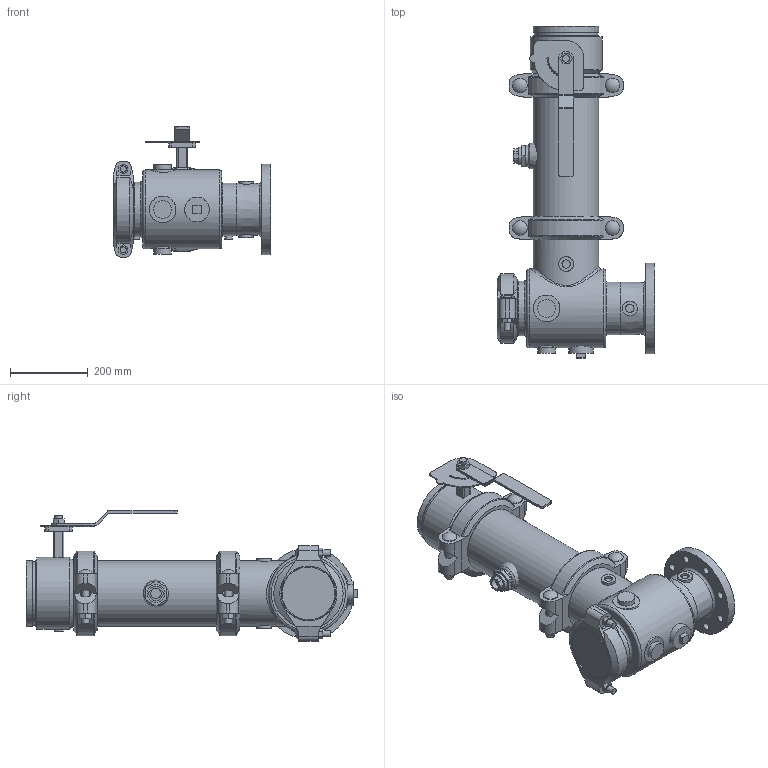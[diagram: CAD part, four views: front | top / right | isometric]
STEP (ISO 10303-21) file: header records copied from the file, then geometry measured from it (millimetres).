
FILE_DESCRIPTION(/* description */ ('VIC SVI PUMP DROP HORZ S/391 (OGSxFLG)','CAx-IF Rec.Pracs.---Representation and Presentation of Product Manufacturing Information (PMI)---4.0---2014-10-13'),/* implementation_level */ '2;1');
FILE_NAME(/* name */ 'C:\Users\Vjadhav\AppData\Roaming\Autodesk\ApplicationPlugins\Victaulic.Temp\A952\Victaulic_IPS_SVI_CL 150_Series 391 (OGSxFLG)_06.0x04.0 (150x100).stp',/* time_stamp */ '2021-04-09T17:54:12+05:00',/* author */ ('kkamble'),/* organization */ ('Victaulic'),/* preprocessor_version */ 'ST-DEVELOPER v17.2',/* originating_system */ 'Autodesk Inventor 2019',/* authorisation */ '');
FILE_SCHEMA (('AP242_MANAGED_MODEL_BASED_3D_ENGINEERING_MIM_LF { 1 0 10303 442 1 1 4 }'));
Length unit declared in the file: inch
Products named in the file (9): 391-06.0x04.0; 731D-06.0x04.0; 731D-06.0x04.0_1; 731D-06.0; 07-05.0; PIPE-06.0; 177N-06.0; 761-06.0; 923-04.0x0.75
Assembly tree (9 placements, depth 3):
  391-06.0x04.0
    731D-06.0x04.0
      731D-06.0x04.0_1
      731D-06.0
      07-05.0
    177N-06.0  x2
    PIPE-06.0
    761-06.0
    923-04.0x0.75
Bounding box: 406.4 x 854.46 x 335.86 mm (x, y, z)
Volume: 11259261.2 mm3; surface area: 1701171.9 mm2
Topology: 8 solids, 11 shells, 532 faces, 1378 edges, 930 vertices
Faces by surface type: plane 298, cylinder 191, cone 19, torus 17, sphere 6, bspline 1
Full cylindrical faces by diameter (mm): 4.826 x10, 8.636 x4, 15.875 x4, 19.05 x14, 21.336 x4, 22.86 x1, 25.4 x2, 26.67 x1, 37.694 x4, 38.1 x4, 45.72 x3, 45.974 x2, 55.118 x1, 55.626 x1, 63.5 x1, 101.6 x1, 104.902 x1, 112.776 x1, 121.412 x1, 134.95 x1, 136.144 x1, 137.033 x2, 141.3 x5, 146.558 x1, 154.051 x2, 155.575 x2, 163.957 x5, 168.275 x13, 185.42 x1, 203.2 x1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
Entity records: 15649 total; most frequent: CARTESIAN_POINT 3563, DIRECTION 2485, ORIENTED_EDGE 2276, EDGE_CURVE 1138, AXIS2_PLACEMENT_3D 948, VERTEX_POINT 771, LINE 589, VECTOR 589
